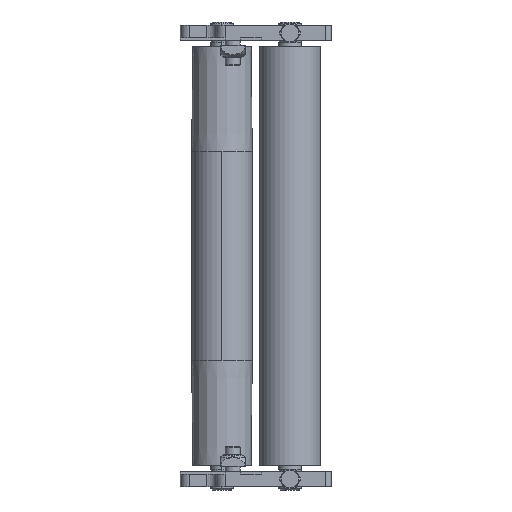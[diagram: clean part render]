
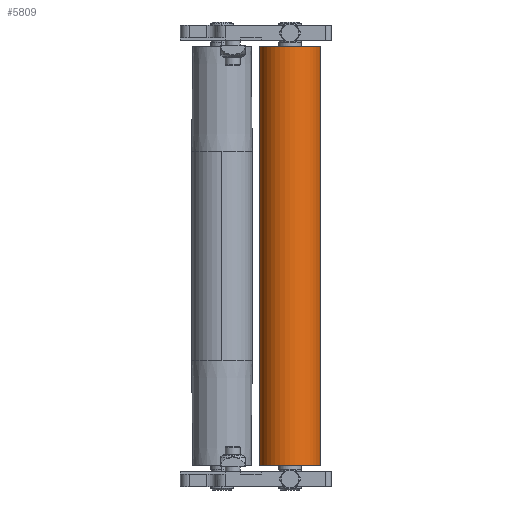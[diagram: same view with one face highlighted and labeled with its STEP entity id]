
A CAD part, left-side view. The second image highlights one B-rep face of the part: STEP entity #5809.
In plain terms, the highlighted cylindrical face has radius 16 mm (diameter 32 mm), a partial arc.
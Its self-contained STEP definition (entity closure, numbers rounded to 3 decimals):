
#101 = AXIS2_PLACEMENT_3D ( 'NONE', #10154, #6019, #7627 ) ;
#469 = CARTESIAN_POINT ( 'NONE',  ( -16., 0., -110.75 ) ) ;
#610 = DIRECTION ( 'NONE',  ( 1., 0., 0. ) ) ;
#731 = CARTESIAN_POINT ( 'NONE',  ( 0., 0., 110.75 ) ) ;
#959 = CIRCLE ( 'NONE', #1815, 16. ) ;
#1120 = VERTEX_POINT ( 'NONE', #469 ) ;
#1772 = CARTESIAN_POINT ( 'NONE',  ( 16., 0., 110.75 ) ) ;
#1815 = AXIS2_PLACEMENT_3D ( 'NONE', #731, #5664, #610 ) ;
#1914 = ORIENTED_EDGE ( 'NONE', *, *, #9926, .T. ) ;
#2212 = CARTESIAN_POINT ( 'NONE',  ( -16., 0., 110.75 ) ) ;
#2727 = DIRECTION ( 'NONE',  ( -1., 0., 0. ) ) ;
#3450 = CYLINDRICAL_SURFACE ( 'NONE', #5621, 16. ) ;
#3484 = LINE ( 'NONE', #1772, #7329 ) ;
#3908 = EDGE_CURVE ( 'NONE', #4283, #6211, #3484, .T. ) ;
#4114 = VECTOR ( 'NONE', #7146, 1000. ) ;
#4283 = VERTEX_POINT ( 'NONE', #4895 ) ;
#4787 = CARTESIAN_POINT ( 'NONE',  ( 16., 0., -110.75 ) ) ;
#4895 = CARTESIAN_POINT ( 'NONE',  ( 16., 0., 110.75 ) ) ;
#5621 = AXIS2_PLACEMENT_3D ( 'NONE', #6083, #7790, #2727 ) ;
#5657 = EDGE_CURVE ( 'NONE', #6996, #4283, #959, .T. ) ;
#5664 = DIRECTION ( 'NONE',  ( 0., 0., 1. ) ) ;
#5809 = ADVANCED_FACE ( 'NONE', ( #9408 ), #3450, .T. ) ;
#5964 = ORIENTED_EDGE ( 'NONE', *, *, #3908, .F. ) ;
#6019 = DIRECTION ( 'NONE',  ( 0., 0., 1. ) ) ;
#6083 = CARTESIAN_POINT ( 'NONE',  ( 0., 0., 110.75 ) ) ;
#6211 = VERTEX_POINT ( 'NONE', #4787 ) ;
#6304 = EDGE_CURVE ( 'NONE', #6996, #1120, #9911, .T. ) ;
#6767 = ORIENTED_EDGE ( 'NONE', *, *, #6304, .T. ) ;
#6996 = VERTEX_POINT ( 'NONE', #2212 ) ;
#7146 = DIRECTION ( 'NONE',  ( 0., 0., -1. ) ) ;
#7329 = VECTOR ( 'NONE', #10186, 1000. ) ;
#7442 = CIRCLE ( 'NONE', #101, 16. ) ;
#7627 = DIRECTION ( 'NONE',  ( 1., 0., 0. ) ) ;
#7790 = DIRECTION ( 'NONE',  ( 0., 0., -1. ) ) ;
#9408 = FACE_OUTER_BOUND ( 'NONE', #10839, .T. ) ;
#9911 = LINE ( 'NONE', #9921, #4114 ) ;
#9921 = CARTESIAN_POINT ( 'NONE',  ( -16., 0., 110.75 ) ) ;
#9926 = EDGE_CURVE ( 'NONE', #1120, #6211, #7442, .T. ) ;
#10154 = CARTESIAN_POINT ( 'NONE',  ( 0., 0., -110.75 ) ) ;
#10186 = DIRECTION ( 'NONE',  ( 0., 0., -1. ) ) ;
#10306 = ORIENTED_EDGE ( 'NONE', *, *, #5657, .F. ) ;
#10839 = EDGE_LOOP ( 'NONE', ( #5964, #10306, #6767, #1914 ) ) ;
